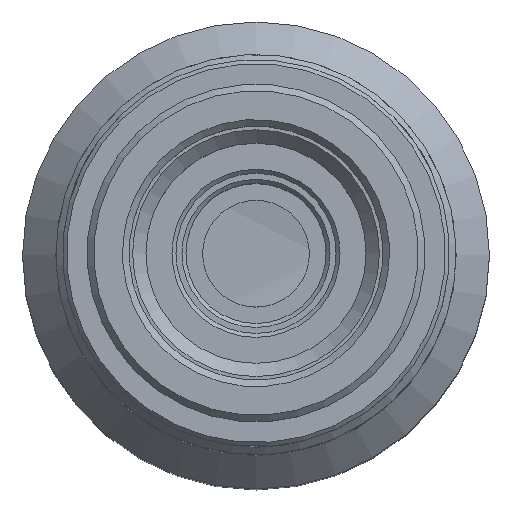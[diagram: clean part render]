
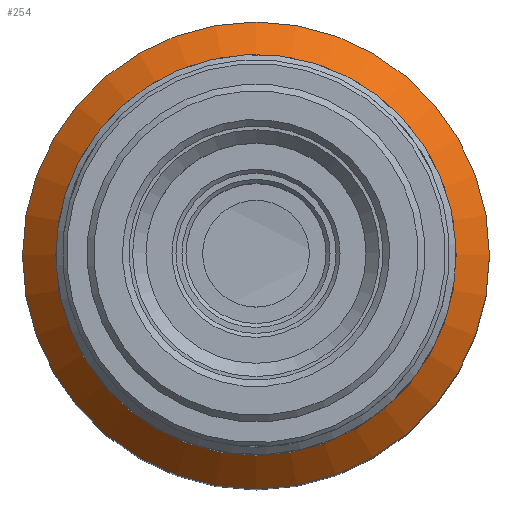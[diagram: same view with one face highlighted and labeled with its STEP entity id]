
A CAD part, top view. The second image highlights one B-rep face of the part: STEP entity #254.
In plain terms, the highlighted conical face has half-angle 45 degrees and reference radius 15 mm.
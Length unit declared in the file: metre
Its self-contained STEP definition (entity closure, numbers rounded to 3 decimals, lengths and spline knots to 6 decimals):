
#254=ADVANCED_FACE('NONE',(#667,#668),#669,.T.);
#667=FACE_OUTER_BOUND('',#1366,.T.);
#668=FACE_BOUND('',#1367,.T.);
#669=CONICAL_SURFACE('',#1368,0.015,0.785);
#1366=EDGE_LOOP('',(#2198));
#1367=EDGE_LOOP('',(#2199));
#1368=AXIS2_PLACEMENT_3D('',#2200,#2201,#2202);
#2198=ORIENTED_EDGE('',*,*,#3399,.F.);
#2199=ORIENTED_EDGE('',*,*,#3400,.T.);
#2200=CARTESIAN_POINT('',(0.,0.0,-0.10139));
#2201=DIRECTION('',(0.,-0.0,-1.0));
#2202=DIRECTION('',(-1.0,0.0,0.));
#3399=EDGE_CURVE('NONE',#3874,#3874,#3875,.T.);
#3400=EDGE_CURVE('NONE',#3876,#3876,#3877,.T.);
#3874=VERTEX_POINT('',#4589);
#3875=CIRCLE('',#4590,0.0175);
#3876=VERTEX_POINT('',#4591);
#3877=CIRCLE('',#4592,0.015);
#4589=CARTESIAN_POINT('',(-0.0175,0.0,-0.10389));
#4590=AXIS2_PLACEMENT_3D('',#5722,#5723,#5724);
#4591=CARTESIAN_POINT('',(-0.015,0.0,-0.10139));
#4592=AXIS2_PLACEMENT_3D('',#5725,#5726,#5727);
#5722=CARTESIAN_POINT('',(0.,0.0,-0.10389));
#5723=DIRECTION('',(0.,0.0,-1.0));
#5724=DIRECTION('',(-1.0,0.0,0.));
#5725=CARTESIAN_POINT('',(0.,0.0,-0.10139));
#5726=DIRECTION('',(0.,0.0,-1.0));
#5727=DIRECTION('',(-1.0,0.0,0.));
